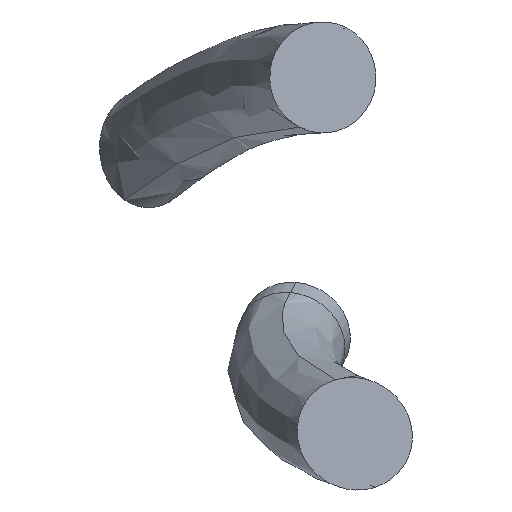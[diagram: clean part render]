
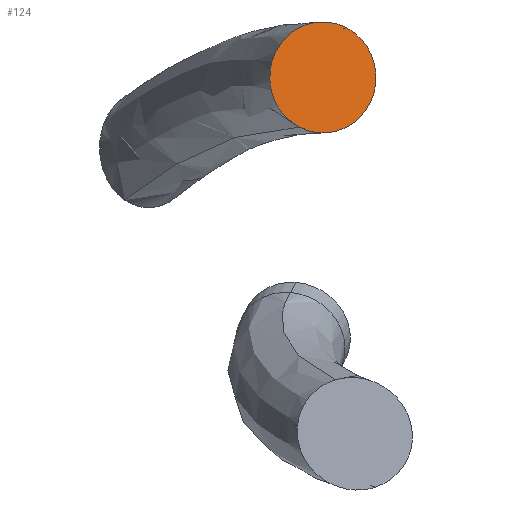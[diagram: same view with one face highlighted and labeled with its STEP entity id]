
A CAD part, top view. The second image highlights one B-rep face of the part: STEP entity #124.
In plain terms, the highlighted planar face has unit normal (0.292, 0, 0.956).
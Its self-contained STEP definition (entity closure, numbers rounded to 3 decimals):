
#73 = EDGE_CURVE ( 'NONE', #620, #1226, #676, .T. ) ;
#124 = ADVANCED_FACE ( 'NONE', ( #545 ), #1533, .T. ) ;
#184 = EDGE_LOOP ( 'NONE', ( #442, #905 ) ) ;
#290 = EDGE_CURVE ( 'NONE', #1226, #620, #1443, .T. ) ;
#364 = AXIS2_PLACEMENT_3D ( 'NONE', #681, #1244, #1788 ) ;
#442 = ORIENTED_EDGE ( 'NONE', *, *, #73, .T. ) ;
#545 = FACE_OUTER_BOUND ( 'NONE', #184, .T. ) ;
#620 = VERTEX_POINT ( 'NONE', #1673 ) ;
#676 = CIRCLE ( 'NONE', #364, 22.5 ) ;
#681 = CARTESIAN_POINT ( 'NONE',  ( 422.067, -245.055, 960.027 ) ) ;
#691 = DIRECTION ( 'NONE',  ( 0.292, 0., 0.956 ) ) ;
#830 = CARTESIAN_POINT ( 'NONE',  ( 422.067, -245.055, 960.027 ) ) ;
#855 = DIRECTION ( 'NONE',  ( -0.427, -0.895, 0.131 ) ) ;
#862 = CARTESIAN_POINT ( 'NONE',  ( 431.675, -224.922, 957.09 ) ) ;
#905 = ORIENTED_EDGE ( 'NONE', *, *, #290, .T. ) ;
#1226 = VERTEX_POINT ( 'NONE', #862 ) ;
#1233 = CARTESIAN_POINT ( 'NONE',  ( 422.067, -245.055, 960.027 ) ) ;
#1244 = DIRECTION ( 'NONE',  ( 0.292, 0., 0.956 ) ) ;
#1377 = AXIS2_PLACEMENT_3D ( 'NONE', #830, #691, #1797 ) ;
#1443 = CIRCLE ( 'NONE', #1753, 22.5 ) ;
#1533 = PLANE ( 'NONE',  #1377 ) ;
#1647 = DIRECTION ( 'NONE',  ( 0.292, 0., 0.956 ) ) ;
#1673 = CARTESIAN_POINT ( 'NONE',  ( 412.459, -265.187, 962.965 ) ) ;
#1753 = AXIS2_PLACEMENT_3D ( 'NONE', #1233, #1647, #855 ) ;
#1788 = DIRECTION ( 'NONE',  ( -0.427, -0.895, 0.131 ) ) ;
#1797 = DIRECTION ( 'NONE',  ( -0.427, -0.895, 0.131 ) ) ;
